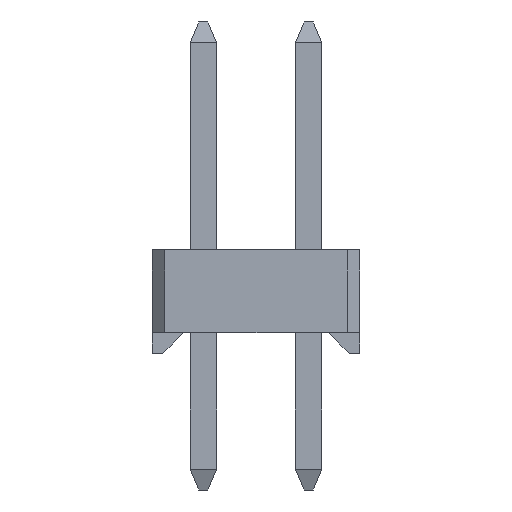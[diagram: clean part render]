
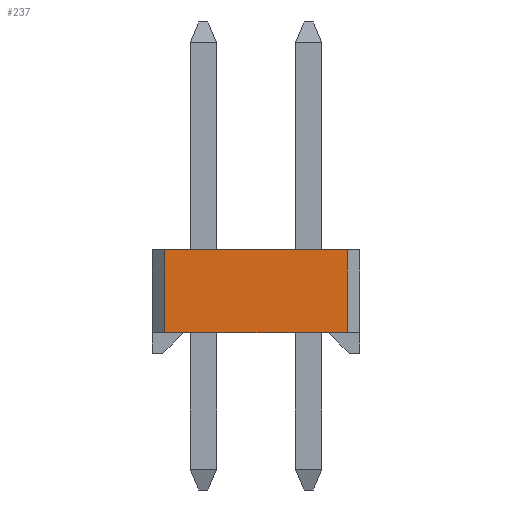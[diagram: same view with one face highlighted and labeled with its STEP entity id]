
A CAD part, left-side view. The second image highlights one B-rep face of the part: STEP entity #237.
In plain terms, the highlighted planar face has unit normal (-1, 0, 0).
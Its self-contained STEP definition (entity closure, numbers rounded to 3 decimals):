
#237=ADVANCED_FACE('',(#3785),#2011,.T.);
#2011=PLANE('',#32018);
#3785=FACE_OUTER_BOUND('',#5695,.T.);
#5695=EDGE_LOOP('',(#9290,#9291,#9292,#9293));
#9290=ORIENTED_EDGE('',*,*,#20551,.F.);
#9291=ORIENTED_EDGE('',*,*,#19996,.T.);
#9292=ORIENTED_EDGE('',*,*,#20552,.T.);
#9293=ORIENTED_EDGE('',*,*,#20362,.T.);
#17157=VERTEX_POINT('',#43869);
#17158=VERTEX_POINT('',#43871);
#17497=VERTEX_POINT('',#44576);
#17498=VERTEX_POINT('',#44578);
#19996=EDGE_CURVE('',#17158,#17157,#24360,.T.);
#20362=EDGE_CURVE('',#17498,#17497,#24726,.T.);
#20551=EDGE_CURVE('',#17158,#17497,#24915,.T.);
#20552=EDGE_CURVE('',#17157,#17498,#24916,.T.);
#24360=LINE('',#43870,#28724);
#24726=LINE('',#44577,#29090);
#24915=LINE('',#44898,#29279);
#24916=LINE('',#44899,#29280);
#28724=VECTOR('',#34993,1.);
#29090=VECTOR('',#35361,1.);
#29279=VECTOR('',#35554,1.);
#29280=VECTOR('',#35555,1.);
#32018=AXIS2_PLACEMENT_3D('',#44900,#35556,#35557);
#34993=DIRECTION('',(0.,-1.,0.));
#35361=DIRECTION('',(0.,1.,0.));
#35554=DIRECTION('',(0.,0.,1.));
#35555=DIRECTION('',(0.,0.,1.));
#35556=DIRECTION('',(-1.,0.,0.));
#35557=DIRECTION('',(0.,0.,1.));
#43869=CARTESIAN_POINT('',(0.,0.3,0.));
#43870=CARTESIAN_POINT('',(0.,2.5,0.));
#43871=CARTESIAN_POINT('',(0.,4.7,0.));
#44576=CARTESIAN_POINT('',(0.,4.7,2.));
#44577=CARTESIAN_POINT('',(0.,2.5,2.));
#44578=CARTESIAN_POINT('',(0.,0.3,2.));
#44898=CARTESIAN_POINT('',(0.,4.7,0.));
#44899=CARTESIAN_POINT('',(0.,0.3,0.));
#44900=CARTESIAN_POINT('',(0.,2.5,0.));
